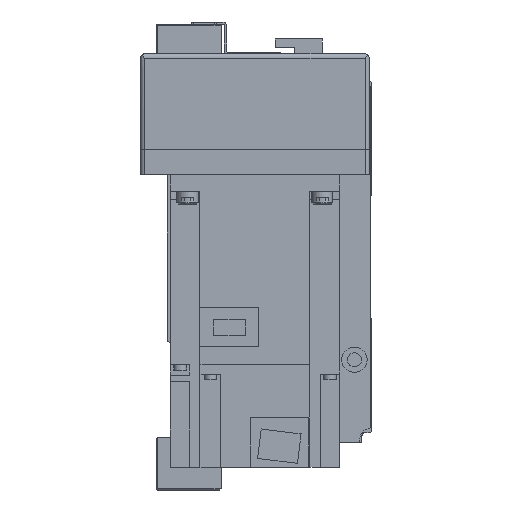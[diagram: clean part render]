
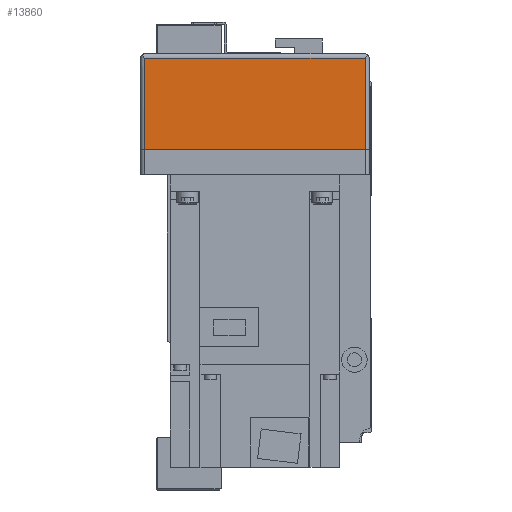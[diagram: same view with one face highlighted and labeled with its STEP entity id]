
A CAD part, left-side view. The second image highlights one B-rep face of the part: STEP entity #13860.
In plain terms, the highlighted planar face has unit normal (-1, 0, 0).
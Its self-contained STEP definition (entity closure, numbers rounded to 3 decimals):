
#2498=ORIENTED_EDGE('',*,*,#5756,.T.);
#2499=ORIENTED_EDGE('',*,*,#5684,.T.);
#2500=ORIENTED_EDGE('',*,*,#5757,.F.);
#2501=ORIENTED_EDGE('',*,*,#5696,.F.);
#5684=EDGE_CURVE('',#7462,#7465,#8918,.T.);
#5696=EDGE_CURVE('',#7472,#7474,#8923,.T.);
#5756=EDGE_CURVE('',#7472,#7462,#8965,.T.);
#5757=EDGE_CURVE('',#7474,#7465,#8966,.T.);
#7462=VERTEX_POINT('',#21671);
#7465=VERTEX_POINT('',#21677);
#7472=VERTEX_POINT('',#21700);
#7474=VERTEX_POINT('',#21703);
#8918=LINE('',#21678,#10231);
#8923=LINE('',#21702,#10236);
#8965=LINE('',#21826,#10278);
#8966=LINE('',#21827,#10279);
#10231=VECTOR('',#17311,1000.);
#10236=VECTOR('',#17338,1000.);
#10278=VECTOR('',#17458,1000.);
#10279=VECTOR('',#17459,1000.);
#11387=EDGE_LOOP('',(#2498,#2499,#2500,#2501));
#12414=FACE_BOUND('',#11387,.T.);
#13273=PLANE('',#14893);
#13860=ADVANCED_FACE('',(#12414),#13273,.T.);
#14893=AXIS2_PLACEMENT_3D('',#21825,#17456,#17457);
#17311=DIRECTION('',(0.,0.,1.));
#17338=DIRECTION('',(0.,0.,1.));
#17456=DIRECTION('',(-1.,0.,0.));
#17457=DIRECTION('',(0.,0.,1.));
#17458=DIRECTION('',(0.,-1.,0.));
#17459=DIRECTION('',(0.,-1.,0.));
#21671=CARTESIAN_POINT('',(-230.,-52.,-55.));
#21677=CARTESIAN_POINT('',(-230.,-52.,-12.));
#21678=CARTESIAN_POINT('',(-230.,-52.,-57.));
#21700=CARTESIAN_POINT('',(-230.,52.,-55.));
#21702=CARTESIAN_POINT('',(-230.,52.,-57.));
#21703=CARTESIAN_POINT('',(-230.,52.,-12.));
#21825=CARTESIAN_POINT('',(-230.,52.,-57.));
#21826=CARTESIAN_POINT('',(-230.,54.,-55.));
#21827=CARTESIAN_POINT('',(-230.,52.,-12.));
